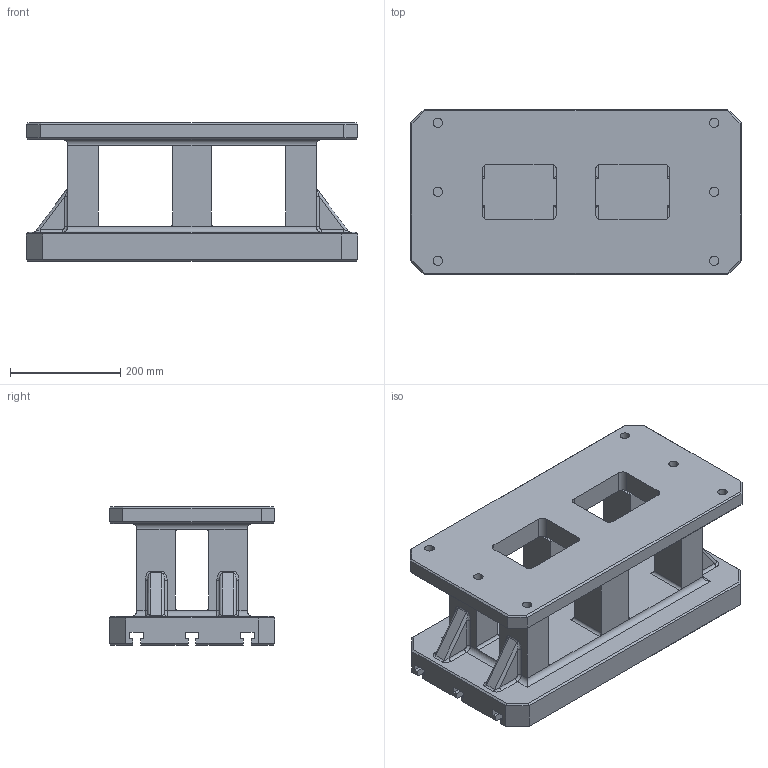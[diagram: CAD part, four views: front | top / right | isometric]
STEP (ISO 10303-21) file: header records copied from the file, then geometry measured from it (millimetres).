
FILE_DESCRIPTION((''),'2;1');
FILE_NAME('FG_WH_RISTL_TSLOTNP003','2026-05-24T11:34:48',('Admin'),(''),'CREO PARAMETRIC BY PTC INC, 2025010','CREO PARAMETRIC BY PTC INC, 2025010','');
FILE_SCHEMA(('CONFIG_CONTROL_DESIGN'));
Length unit declared in the file: millimetre
Products named in the file (1): FG_WH_RISTL_TSLOTNP003
Bounding box: 600 x 300 x 250 mm (x, y, z)
Volume: 18538602.2 mm3; surface area: 1160304 mm2
Topology: 1 solids, 1 shells, 276 faces, 690 edges, 412 vertices
Faces by surface type: plane 148, cylinder 104, bspline 24
Entity records: 9286 total; most frequent: CARTESIAN_POINT 2760, ORIENTED_EDGE 1380, DIRECTION 1298, EDGE_CURVE 690, VECTOR 474, LINE 474, AXIS2_PLACEMENT_3D 412, VERTEX_POINT 412
